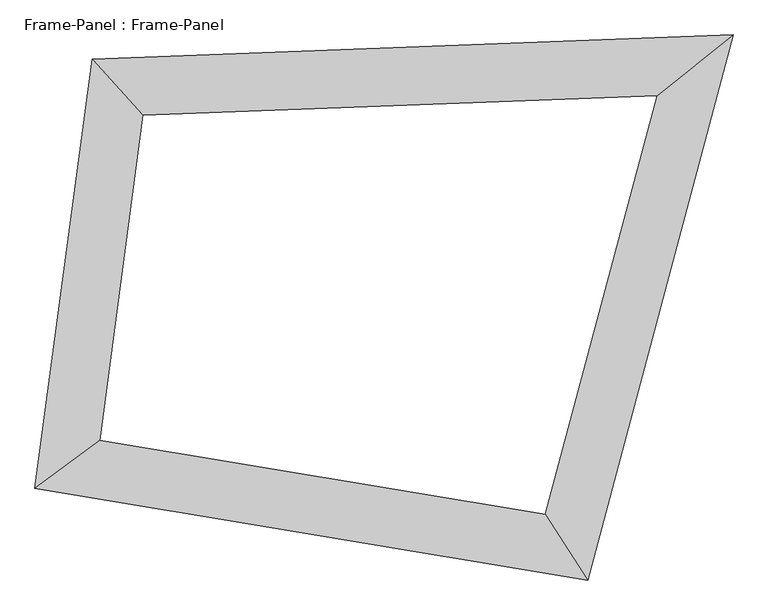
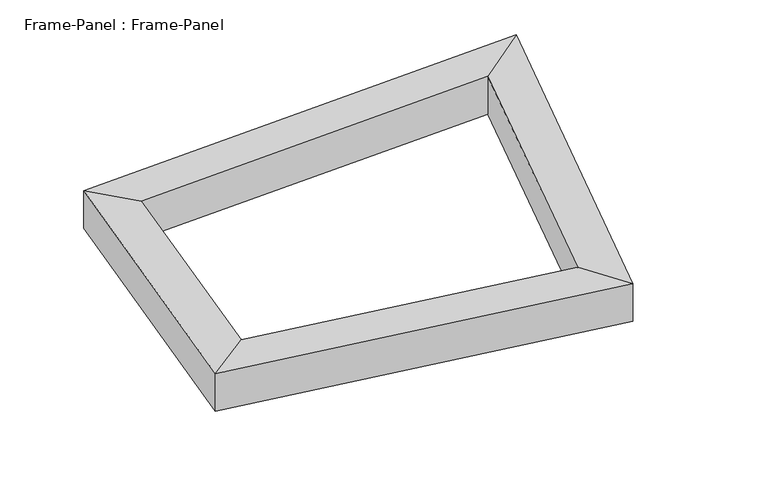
"""IFC4 building model written with IfcOpenShell, lengths in millimetres: proxy geometry, Frame-Panel : Frame-Panel."""

from ifc_helpers import new_model, si_unit, origin, place, context, project, spatial, faceted_brep, source, transform, mapped, element, save


def frame_panel_frame_panel_29b1b9b6(model_context):
    return source(origin(), model_context, "Body", "Brep", [
        faceted_brep([(-509.6469448, -1159.2258616, 0.0), (-509.6469448, -1159.2258616, 101.6), (-1480.1484895, -998.2092035, 101.6), (-1480.1484895, -998.2092035, 0.0), (-584.0525295, -1043.8923261, 0.0), (-1366.470478, -914.0807622, 0.0), (-584.0525295, -1043.8923261, 101.6), (-1366.470478, -914.0807622, 101.6), (-1379.8321105, -243.6171567, 101.6), (-1379.8321105, -243.6171567, 0.0), (-1290.4072699, -341.9240267, 0.0), (-1290.4072699, -341.9240267, 101.6), (-254.3062808, -201.2638642, 101.6), (-254.3062808, -201.2638642, 0.0), (-387.8936248, -307.9626344, 0.0), (-387.8936248, -307.9626344, 101.6)], [[[0, 1, 2, 3]], [[4, 0, 3, 5]], [[6, 4, 5, 7]], [[1, 6, 7, 2]], [[3, 2, 8, 9]], [[5, 3, 9, 10]], [[7, 5, 10, 11]], [[2, 7, 11, 8]], [[9, 8, 12, 13]], [[10, 9, 13, 14]], [[11, 10, 14, 15]], [[8, 11, 15, 12]], [[13, 12, 1, 0]], [[14, 13, 0, 4]], [[15, 14, 4, 6]], [[12, 15, 6, 1]]]),
    ])


if __name__ == "__main__":
    model = new_model("IFC4")
    model_context = context("Model", 3, world=origin())
    ifc_project = project(units=[si_unit("LENGTHUNIT", "METRE", prefix="MILLI")], contexts=[model_context])
    site = spatial("IfcSite", under=ifc_project)
    building = spatial("IfcBuilding", under=site)
    placement = place(None, origin())
    frame_panel_frame_panel_shape = frame_panel_frame_panel_29b1b9b6(model_context)
    element("IfcBuildingElementProxy", 1, Name="Frame-Panel : Frame-Panel", ObjectType="Frame-Panel : Frame-Panel", at=placement, inside=building, context=model_context, shape_type="MappedRepresentation", body=[
        mapped(frame_panel_frame_panel_shape, transform((0.0, 0.0, 0.0), x_axis=(1.0, 0.0, 0.0), y_axis=(0.0, 1.0, 0.0), z_axis=(0.0, 0.0, 1.0))),
    ])
    save(model, "model.ifc")
